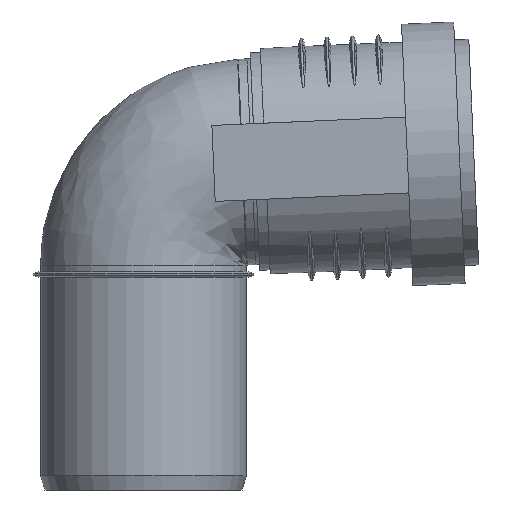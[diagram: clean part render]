
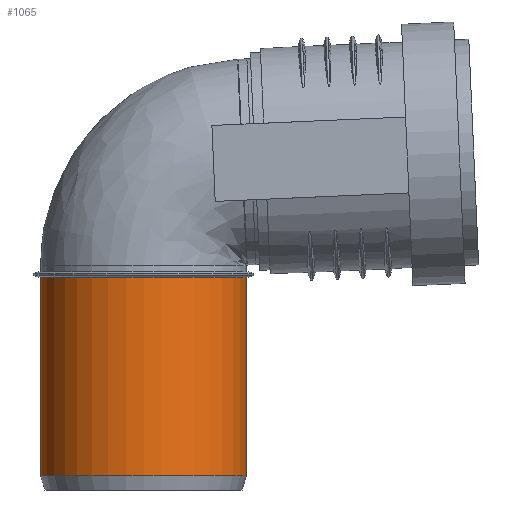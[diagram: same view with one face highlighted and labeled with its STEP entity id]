
A CAD part, front view. The second image highlights one B-rep face of the part: STEP entity #1065.
In plain terms, the highlighted cylindrical face has radius 25.075 mm (diameter 50.15 mm), a full revolution.
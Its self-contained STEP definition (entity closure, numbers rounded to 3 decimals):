
#190=CYLINDRICAL_SURFACE($,#1140,25.075);
#209=FACE_BOUND($,#314,.T.);
#252=FACE_OUTER_BOUND($,#313,.T.);
#313=EDGE_LOOP($,(#716));
#314=EDGE_LOOP($,(#717));
#414=CIRCLE($,#1138,25.075);
#416=CIRCLE($,#1141,25.075);
#469=VERTEX_POINT($,#1555);
#471=VERTEX_POINT($,#1560);
#575=EDGE_CURVE($,#469,#469,#414,.T.);
#577=EDGE_CURVE($,#471,#471,#416,.T.);
#716=ORIENTED_EDGE($,*,*,#577,.T.);
#717=ORIENTED_EDGE($,*,*,#575,.F.);
#1065=ADVANCED_FACE($,(#252,#209),#190,.T.);
#1138=AXIS2_PLACEMENT_3D($,#1556,#1267,#1268);
#1140=AXIS2_PLACEMENT_3D($,#1559,#1271,#1272);
#1141=AXIS2_PLACEMENT_3D($,#1561,#1273,#1274);
#1267=DIRECTION('center_axis',(0.,0.,-1.));
#1268=DIRECTION('ref_axis',(-1.,0.,0.));
#1271=DIRECTION('center_axis',(0.,0.,1.));
#1272=DIRECTION('ref_axis',(-1.,0.,0.));
#1273=DIRECTION('center_axis',(0.,0.,-1.));
#1274=DIRECTION('ref_axis',(-1.,0.,0.));
#1555=CARTESIAN_POINT('',(25.075,0.,3.5));
#1556=CARTESIAN_POINT('Origin',(0.,0.,3.5));
#1559=CARTESIAN_POINT('Origin',(0.,0.,0.));
#1560=CARTESIAN_POINT('',(-25.075,0.,51.8));
#1561=CARTESIAN_POINT('Origin',(0.,0.,51.8));
